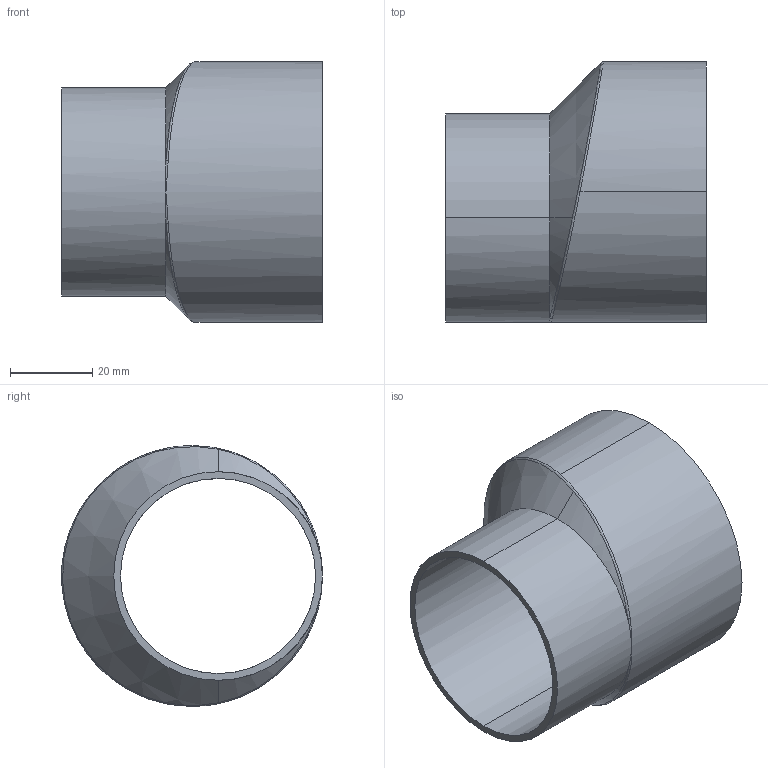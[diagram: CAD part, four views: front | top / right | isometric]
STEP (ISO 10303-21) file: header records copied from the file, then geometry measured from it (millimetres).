
FILE_DESCRIPTION (( 'STEP AP214' ), '1' );
FILE_NAME ('TE32SWW6L2.5x2.0-...STEP', '2016-06-01T07:24:35', ( 'eran' ), ( '' ), 'SwSTEP 2.0', 'SolidWorks 2016', '' );
FILE_SCHEMA (( 'AUTOMOTIVE_DESIGN' ));
Length unit declared in the file: millimetre
Products named in the file (1): TE32SWW6L2.5x2.0-..
Bounding box: 63.5 x 63.5 x 63.5 mm (x, y, z)
Volume: 35313 mm3; surface area: 22966 mm2
Topology: 1 solids, 1 shells, 22 faces, 53 edges, 29 vertices
Faces by surface type: cylinder 8, cone 5, bspline 5, torus 2, plane 2
Entity records: 1432 total; most frequent: CARTESIAN_POINT 940, ORIENTED_EDGE 98, DIRECTION 91, EDGE_CURVE 49, AXIS2_PLACEMENT_3D 40, VERTEX_POINT 29, EDGE_LOOP 24, CIRCLE 22
